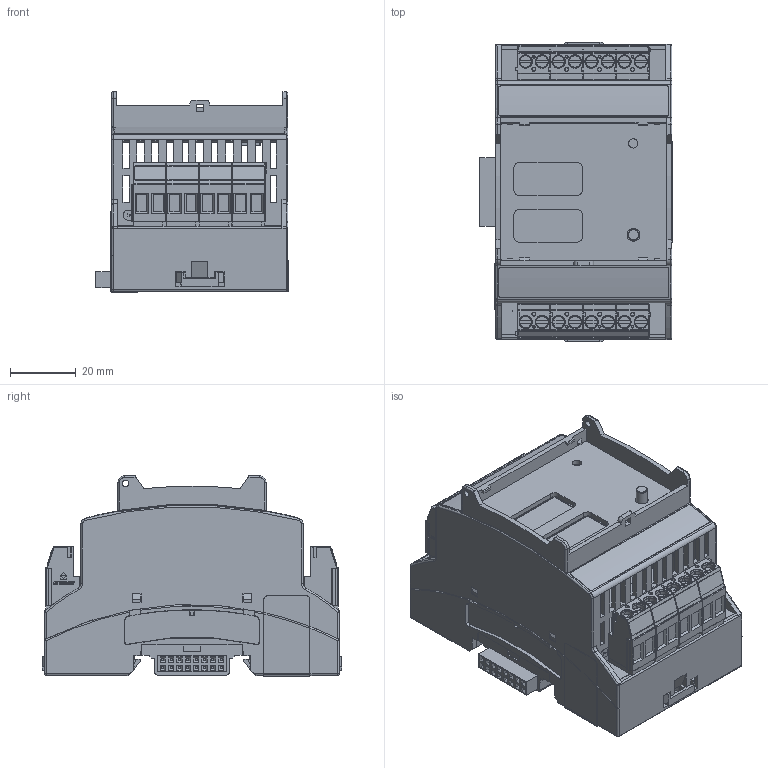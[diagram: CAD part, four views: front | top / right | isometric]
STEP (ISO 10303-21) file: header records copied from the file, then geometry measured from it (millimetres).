
FILE_DESCRIPTION(/* description */ (''),/* implementation_level */ '2;1');
FILE_NAME(/* name */ 'D:\WorkIMT\Project IMT\ИРИС-DIN\v2\!aiao\3D на сайт\IRIS-DIN.4AI4AO 3D.stp',/* time_stamp */ '2024-02-06T16:07:57+03:00',/* author */ ('Admin'),/* organization */ (''),/* preprocessor_version */ 'ST-DEVELOPER v17.2',/* originating_system */ 'Autodesk Inventor 2019',/* authorisation */ '');
FILE_SCHEMA (('AUTOMOTIVE_DESIGN { 1 0 10303 214 3 1 1 }'));
Products named in the file (1): IRIS-DIN.4AI4AO 3D
Bounding box: 58.5 x 91 x 60.9 mm (x, y, z)
Volume: 72754.5 mm3; surface area: 73898 mm2
Topology: 7 solids, 57 shells, 6743 faces, 18903 edges, 12317 vertices
Faces by surface type: plane 5525, cylinder 937, torus 107, sphere 72, cone 58, bspline 44
Full cylindrical faces by diameter (mm): 0.2 x182, 0.4 x1, 1 x18, 1.8 x2, 2 x6, 2.4 x2, 2.8 x1, 3 x7, 3.5 x1, 3.85 x1, 3.9 x1, 4.05 x16, 6 x1, 7 x1
Entity records: 229933 total; most frequent: CARTESIAN_POINT 47134, ORIENTED_EDGE 37662, DIRECTION 34413, EDGE_CURVE 18831, LINE 16001, VECTOR 16001, VERTEX_POINT 12317, AXIS2_PLACEMENT_3D 9206
